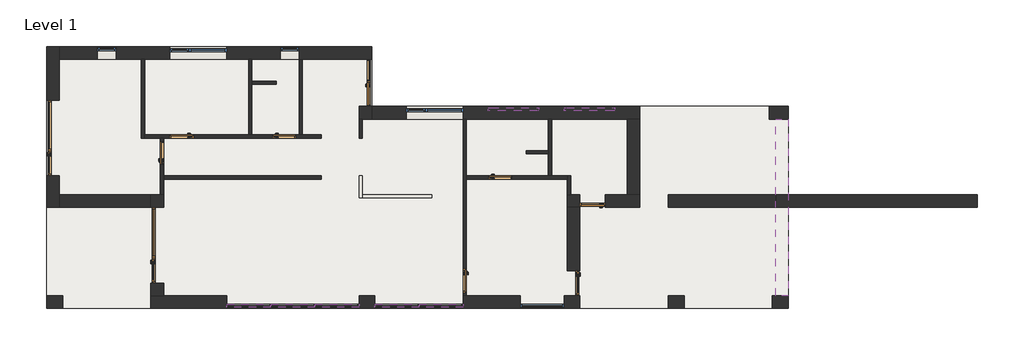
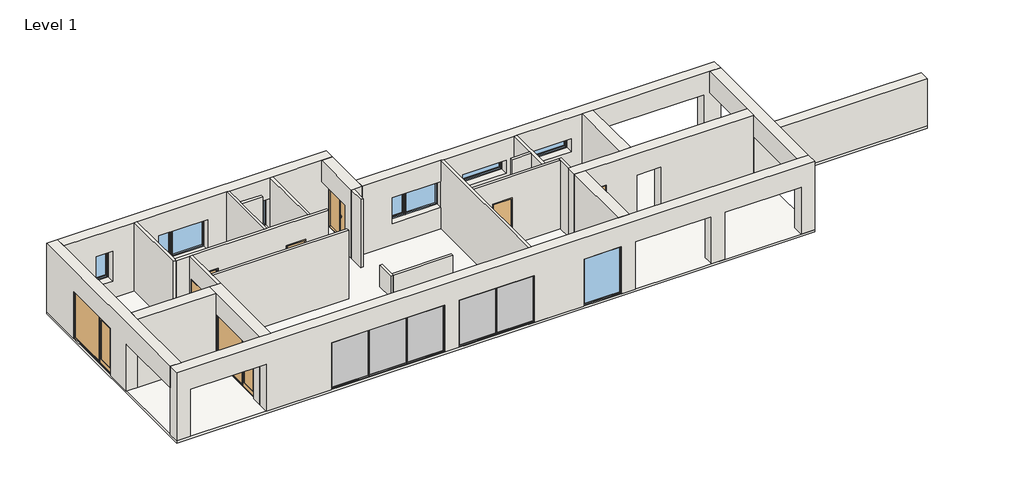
# One storey: 27 walls, 17 members, 10 doors, 7 windows, 5 plates, 1 slab.
"""IFC4 building model written with IfcOpenShell, lengths in millimetres."""

from ifc_helpers import new_model, si_unit, frame, origin, origin_with_axes, place, context, project, spatial, polyline, outline, extrude, faceted_brep, transform, mapped, element, save
from components import door_1800x2200_mm_7a9b0269, ext_door_window_assembly_glass_2880x2200_mm_ebeafb6b, ext_single_flush_out_glass_960x2200_mm_f4f0ea2b, ext_single_flush1_960x2200_mm_7c25dc53, int_single_flush1_900x2200_mm_083ae047, int_single_flush1_900x2200_mm_924e3177, rectangular_mullion_exterior_50x115mm_b31c03e9, rectangular_mullion_exterior_50x115mm_eaa21abb, rectangular_mullion_exterior_50x115mm_593a1a29, system_panel_exterior_glass_22mm_baca3ab9, system_panel_exterior_glass_22mm_266c4f93, fixed_1680x2200_mm_e3bfc0e5, single_light_top_hinged_1920x600_dd11e4f9, single_light_720x1400_mm_50d61ae6, window_assembly_individual_2160x1200_mm_f898fd7d, window_assembly_individual_2160x1400_mm_6f070fa8

model = new_model("IFC4")

# Units and contexts
model_context = context("Model", 3, world=origin())
ifc_project = project(units=[si_unit("LENGTHUNIT", "METRE", prefix="MILLI")], contexts=[model_context])

# Site, building, storey
site = spatial("IfcSite", under=ifc_project)
building = spatial("IfcBuilding", under=site)
storey = spatial("IfcBuildingStorey", under=building, Name="Level 1", Elevation=0.0)

# Doors
placement = place(None, origin())
door_1800x2200_mm_shape = door_1800x2200_mm_7a9b0269(model_context)
element("IfcDoor", 1, ObjectType="Ext. Door inw. Window Assembly : 1800x2200 mm", at=placement, inside=storey, context=model_context, shape_type="MappedRepresentation", body=[
    mapped(door_1800x2200_mm_shape, transform((12120.0, 8580.0, 0.0), x_axis=(0.0, -1.0, 0.0), y_axis=(1.0, 0.0, 0.0), z_axis=(0.0, 0.0, 1.0))),
])
ext_door_window_assembly_glass_2880x2200_mm_shape = ext_door_window_assembly_glass_2880x2200_mm_ebeafb6b(model_context)
element("IfcDoor", 2, ObjectType="Ext. Door Window Assembly - Glass : 2880x2200 mm", at=placement, inside=storey, context=model_context, shape_type="MappedRepresentation", body=[
    mapped(ext_door_window_assembly_glass_2880x2200_mm_shape, transform((4200.0, 2400.0, 0.0), x_axis=(0.0, -1.0, 0.0), y_axis=(1.0, 0.0, 0.0), z_axis=(0.0, 0.0, 1.0))),
])
element("IfcDoor", 3, ObjectType="Ext. Door Window Assembly - Glass : 2880x2200 mm", at=placement, inside=storey, context=model_context, shape_type="MappedRepresentation", body=[
    mapped(ext_door_window_assembly_glass_2880x2200_mm_shape, transform((240.0, 6480.0, 0.0), x_axis=(0.0, -1.0, 0.0), y_axis=(1.0, 0.0, 0.0), z_axis=(0.0, 0.0, 1.0))),
])
ext_single_flush_out_glass_960x2200_mm_shape = ext_single_flush_out_glass_960x2200_mm_f4f0ea2b(model_context)
element("IfcDoor", 4, ObjectType="Ext. Single-Flush out - Glass : 960x2200 mm", at=placement, inside=storey, context=model_context, shape_type="MappedRepresentation", body=[
    mapped(ext_single_flush_out_glass_960x2200_mm_shape, transform((20040.0, 960.0, 0.0), x_axis=(0.0, -1.0, 0.0), y_axis=(1.0, 0.0, 0.0), z_axis=(0.0, 0.0, 1.0))),
])
ext_single_flush1_960x2200_mm_shape = ext_single_flush1_960x2200_mm_7c25dc53(model_context)
element("IfcDoor", 5, ObjectType="Ext. Single-Flush1 : 960x2200 mm", at=placement, inside=storey, context=model_context, shape_type="MappedRepresentation", body=[
    mapped(ext_single_flush1_960x2200_mm_shape, transform((20760.0, 4080.0, 0.0), x_axis=(-1.0, 0.0, 0.0), y_axis=(0.0, -1.0, 0.0), z_axis=(0.0, 0.0, 1.0))),
])
int_single_flush1_900x2200_mm_shape = int_single_flush1_900x2200_mm_083ae047(model_context)
element("IfcDoor", 6, ObjectType="Int. Single-Flush1 : 900x2200 mm", at=placement, inside=storey, context=model_context, shape_type="MappedRepresentation", body=[
    mapped(int_single_flush1_900x2200_mm_shape, transform((4380.0, 5910.0, 0.0), x_axis=(0.0, 1.0, 0.0), y_axis=(-1.0, 0.0, 0.0), z_axis=(0.0, 0.0, 1.0))),
])
element("IfcDoor", 7, ObjectType="Int. Single-Flush1 : 900x2200 mm", at=placement, inside=storey, context=model_context, shape_type="MappedRepresentation", body=[
    mapped(int_single_flush1_900x2200_mm_shape, transform((9030.0, 6540.0, 0.0), x_axis=(1.0, 0.0, 0.0), y_axis=(0.0, 1.0, 0.0), z_axis=(0.0, 0.0, 1.0))),
])
element("IfcDoor", 8, ObjectType="Int. Single-Flush1 : 900x2200 mm", at=placement, inside=storey, context=model_context, shape_type="MappedRepresentation", body=[
    mapped(int_single_flush1_900x2200_mm_shape, transform((17250.0, 4980.0, 0.0), x_axis=(1.0, 0.0, 0.0), y_axis=(0.0, 1.0, 0.0), z_axis=(0.0, 0.0, 1.0))),
])
element("IfcDoor", 9, ObjectType="Int. Single-Flush1 : 900x2200 mm", at=placement, inside=storey, context=model_context, shape_type="MappedRepresentation", body=[
    mapped(int_single_flush1_900x2200_mm_shape, transform((15900.0, 1050.0, 0.0), x_axis=(0.0, -1.0, 0.0), y_axis=(1.0, 0.0, 0.0), z_axis=(0.0, 0.0, 1.0))),
])
int_single_flush1_900x2200_mm_2_shape = int_single_flush1_900x2200_mm_924e3177(model_context)
element("IfcDoor", 10, ObjectType="Int. Single-Flush1 : 900x2200 mm", at=placement, inside=storey, context=model_context, shape_type="MappedRepresentation", body=[
    mapped(int_single_flush1_900x2200_mm_2_shape, transform((5130.0, 6540.0, 0.0), x_axis=(-1.0, 0.0, 0.0), y_axis=(0.0, -1.0, 0.0), z_axis=(0.0, 0.0, 1.0))),
])

# Members
rectangular_mullion_exterior_50x115mm_shape = rectangular_mullion_exterior_50x115mm_b31c03e9(model_context)
element("IfcMember", 11, ObjectType="Rectangular Mullion : Exterior - 50x115mm", at=placement, inside=storey, context=model_context, shape_type="MappedRepresentation", body=[
    mapped(rectangular_mullion_exterior_50x115mm_shape, transform((6840.0, 50.0, 2200.0), x_axis=(0.0, 0.0, 1.0), y_axis=(0.0, 1.0, 0.0), z_axis=(-1.0, 0.0, 0.0))),
])
element("IfcMember", 12, ObjectType="Rectangular Mullion : Exterior - 50x115mm", at=placement, inside=storey, context=model_context, shape_type="MappedRepresentation", body=[
    mapped(rectangular_mullion_exterior_50x115mm_shape, transform((12480.0, 50.0, 2200.0), x_axis=(0.0, 0.0, 1.0), y_axis=(0.0, 1.0, 0.0), z_axis=(-1.0, 0.0, 0.0))),
])
element("IfcMember", 13, ObjectType="Rectangular Mullion : Exterior - 50x115mm", at=placement, inside=storey, context=model_context, shape_type="MappedRepresentation", body=[
    mapped(rectangular_mullion_exterior_50x115mm_shape, transform((11880.0, 50.0, 0.0), x_axis=(0.0, 0.0, -1.0), y_axis=(0.0, 1.0, 0.0), z_axis=(1.0, 0.0, 0.0))),
])
element("IfcMember", 14, ObjectType="Rectangular Mullion : Exterior - 50x115mm", at=placement, inside=storey, context=model_context, shape_type="MappedRepresentation", body=[
    mapped(rectangular_mullion_exterior_50x115mm_shape, transform((15840.0, 50.0, 0.0), x_axis=(0.0, 0.0, -1.0), y_axis=(0.0, 1.0, 0.0), z_axis=(1.0, 0.0, 0.0))),
])
rectangular_mullion_exterior_50x115mm_2_shape = rectangular_mullion_exterior_50x115mm_eaa21abb(model_context)
element("IfcMember", 15, ObjectType="Rectangular Mullion : Exterior - 50x115mm", at=placement, inside=storey, context=model_context, shape_type="MappedRepresentation", body=[
    mapped(rectangular_mullion_exterior_50x115mm_2_shape, transform((8520.0, 50.0, 50.0), x_axis=(-1.0, 0.0, 0.0), y_axis=(0.0, 1.0, 0.0), z_axis=(0.0, 0.0, -1.0))),
])
element("IfcMember", 16, ObjectType="Rectangular Mullion : Exterior - 50x115mm", at=placement, inside=storey, context=model_context, shape_type="MappedRepresentation", body=[
    mapped(rectangular_mullion_exterior_50x115mm_2_shape, transform((10200.0, 50.0, 50.0), x_axis=(-1.0, 0.0, 0.0), y_axis=(0.0, 1.0, 0.0), z_axis=(0.0, 0.0, -1.0))),
])
element("IfcMember", 17, ObjectType="Rectangular Mullion : Exterior - 50x115mm", at=placement, inside=storey, context=model_context, shape_type="MappedRepresentation", body=[
    mapped(rectangular_mullion_exterior_50x115mm_2_shape, transform((14160.0, 50.0, 50.0), x_axis=(-1.0, 0.0, 0.0), y_axis=(0.0, 1.0, 0.0), z_axis=(0.0, 0.0, -1.0))),
])
element("IfcMember", 18, ObjectType="Rectangular Mullion : Exterior - 50x115mm", at=placement, inside=storey, context=model_context, shape_type="MappedRepresentation", body=[
    mapped(rectangular_mullion_exterior_50x115mm_shape, transform((8520.0, 50.0, 0.0), x_axis=(0.0, 0.0, -1.0), y_axis=(0.0, 1.0, 0.0), z_axis=(1.0, 0.0, 0.0))),
])
element("IfcMember", 19, ObjectType="Rectangular Mullion : Exterior - 50x115mm", at=placement, inside=storey, context=model_context, shape_type="MappedRepresentation", body=[
    mapped(rectangular_mullion_exterior_50x115mm_shape, transform((14160.0, 50.0, 0.0), x_axis=(0.0, 0.0, -1.0), y_axis=(0.0, 1.0, 0.0), z_axis=(1.0, 0.0, 0.0))),
])
element("IfcMember", 20, ObjectType="Rectangular Mullion : Exterior - 50x115mm", at=placement, inside=storey, context=model_context, shape_type="MappedRepresentation", body=[
    mapped(rectangular_mullion_exterior_50x115mm_shape, transform((10200.0, 50.0, 0.0), x_axis=(0.0, 0.0, -1.0), y_axis=(0.0, 1.0, 0.0), z_axis=(1.0, 0.0, 0.0))),
])
element("IfcMember", 21, ObjectType="Rectangular Mullion : Exterior - 50x115mm", at=placement, inside=storey, context=model_context, shape_type="MappedRepresentation", body=[
    mapped(rectangular_mullion_exterior_50x115mm_shape, transform((8520.0, 50.0, 2200.0), x_axis=(0.0, 0.0, 1.0), y_axis=(0.0, 1.0, 0.0), z_axis=(-1.0, 0.0, 0.0))),
])
element("IfcMember", 22, ObjectType="Rectangular Mullion : Exterior - 50x115mm", at=placement, inside=storey, context=model_context, shape_type="MappedRepresentation", body=[
    mapped(rectangular_mullion_exterior_50x115mm_shape, transform((10200.0, 50.0, 2200.0), x_axis=(0.0, 0.0, 1.0), y_axis=(0.0, 1.0, 0.0), z_axis=(-1.0, 0.0, 0.0))),
])
element("IfcMember", 23, ObjectType="Rectangular Mullion : Exterior - 50x115mm", at=placement, inside=storey, context=model_context, shape_type="MappedRepresentation", body=[
    mapped(rectangular_mullion_exterior_50x115mm_shape, transform((14160.0, 50.0, 2200.0), x_axis=(0.0, 0.0, 1.0), y_axis=(0.0, 1.0, 0.0), z_axis=(-1.0, 0.0, 0.0))),
])
rectangular_mullion_exterior_50x115mm_3_shape = rectangular_mullion_exterior_50x115mm_593a1a29(model_context)
element("IfcMember", 24, ObjectType="Rectangular Mullion : Exterior - 50x115mm", at=placement, inside=storey, context=model_context, shape_type="MappedRepresentation", body=[
    mapped(rectangular_mullion_exterior_50x115mm_3_shape, transform((11880.0, 50.0, 2150.0), x_axis=(1.0, 0.0, 0.0), y_axis=(0.0, 1.0, 0.0), z_axis=(0.0, 0.0, 1.0))),
])
element("IfcMember", 25, ObjectType="Rectangular Mullion : Exterior - 50x115mm", at=placement, inside=storey, context=model_context, shape_type="MappedRepresentation", body=[
    mapped(rectangular_mullion_exterior_50x115mm_3_shape, transform((15840.0, 50.0, 2150.0), x_axis=(1.0, 0.0, 0.0), y_axis=(0.0, 1.0, 0.0), z_axis=(0.0, 0.0, 1.0))),
])
element("IfcMember", 26, ObjectType="Rectangular Mullion : Exterior - 50x115mm", at=placement, inside=storey, context=model_context, shape_type="MappedRepresentation", body=[
    mapped(rectangular_mullion_exterior_50x115mm_3_shape, transform((6840.0, 50.0, 50.0), x_axis=(-1.0, 0.0, 0.0), y_axis=(0.0, 1.0, 0.0), z_axis=(0.0, 0.0, -1.0))),
])
element("IfcMember", 27, ObjectType="Rectangular Mullion : Exterior - 50x115mm", at=placement, inside=storey, context=model_context, shape_type="MappedRepresentation", body=[
    mapped(rectangular_mullion_exterior_50x115mm_3_shape, transform((12480.0, 50.0, 50.0), x_axis=(-1.0, 0.0, 0.0), y_axis=(0.0, 1.0, 0.0), z_axis=(0.0, 0.0, -1.0))),
])

# Plates
system_panel_exterior_glass_22mm_shape = system_panel_exterior_glass_22mm_baca3ab9(model_context)
element("IfcPlate", 28, ObjectType="System Panel : Exterior - Glass 22mm", at=placement, inside=storey, context=model_context, shape_type="MappedRepresentation", body=[
    mapped(system_panel_exterior_glass_22mm_shape, transform((11027.5, 50.0, 50.0), x_axis=(-1.0, 0.0, 0.0), y_axis=(0.0, -1.0, 0.0), z_axis=(0.0, 0.0, 1.0))),
])
element("IfcPlate", 29, ObjectType="System Panel : Exterior - Glass 22mm", at=placement, inside=storey, context=model_context, shape_type="MappedRepresentation", body=[
    mapped(system_panel_exterior_glass_22mm_shape, transform((7692.5, 50.0, 50.0), x_axis=(-1.0, 0.0, 0.0), y_axis=(0.0, -1.0, 0.0), z_axis=(0.0, 0.0, 1.0))),
])
element("IfcPlate", 30, ObjectType="System Panel : Exterior - Glass 22mm", at=placement, inside=storey, context=model_context, shape_type="MappedRepresentation", body=[
    mapped(system_panel_exterior_glass_22mm_shape, transform((14987.5, 50.0, 50.0), x_axis=(-1.0, 0.0, 0.0), y_axis=(0.0, -1.0, 0.0), z_axis=(0.0, 0.0, 1.0))),
])
element("IfcPlate", 31, ObjectType="System Panel : Exterior - Glass 22mm", at=placement, inside=storey, context=model_context, shape_type="MappedRepresentation", body=[
    mapped(system_panel_exterior_glass_22mm_shape, transform((13332.5, 50.0, 50.0), x_axis=(-1.0, 0.0, 0.0), y_axis=(0.0, -1.0, 0.0), z_axis=(0.0, 0.0, 1.0))),
])
system_panel_exterior_glass_22mm_2_shape = system_panel_exterior_glass_22mm_266c4f93(model_context)
element("IfcPlate", 32, ObjectType="System Panel : Exterior - Glass 22mm", at=placement, inside=storey, context=model_context, shape_type="MappedRepresentation", body=[
    mapped(system_panel_exterior_glass_22mm_2_shape, transform((9360.0, 50.0, 50.0), x_axis=(-1.0, 0.0, 0.0), y_axis=(0.0, -1.0, 0.0), z_axis=(0.0, 0.0, 1.0))),
])

# Slab
element("IfcSlab", 33, ObjectType="Generic - 100mm (Ground)", at=placement, inside=storey, context=model_context, shape_type="SweptSolid", body=[
    extrude(outline(polyline([(12360.0, 9960.0), (12360.0, 7680.0), (28200.0, 7680.0), (28200.0, 4320.0), (35400.0, 4320.0), (35400.0, 3840.0), (28200.0, 3840.0), (28200.0, 0.0), (0.0, 0.0), (0.0, 9960.0), (12360.0, 9960.0)])), frame((0.0, 0.0, -100.0), z_axis=(0.0, 0.0, 1.0), x_axis=(1.0, 0.0, 0.0)), (0.0, 0.0, 1.0), 100.0),
])

# Walls
element("IfcWall", 34, ObjectType="Generic - 120mm (Interior)", at=placement, inside=storey, context=model_context, shape_type="Brep", body=[
    faceted_brep([(3600.0, 9480.0, 0.0), (3600.0, 6480.0, 0.0), (3600.0, 6480.0, 3200.0), (3600.0, 9480.0, 3200.0), (3720.0, 9480.0, 0.0), (3720.0, 9480.0, 3200.0), (3720.0, 6600.0, 3200.0), (3720.0, 6480.0, 3200.0), (3720.0, 6480.0, 0.0), (3720.0, 6600.0, 0.0)], [[[0, 1, 2, 3]], [[4, 5, 6, 7, 8, 9]], [[1, 0, 4, 9, 8]], [[3, 2, 7, 6, 5]], [[2, 1, 8, 7]], [[0, 3, 5, 4]]]),
])
element("IfcWall", 35, ObjectType="Generic - 120mm (Interior)", at=placement, inside=storey, context=model_context, shape_type="Brep", body=[
    faceted_brep([(10440.0, 6480.0, 0.0), (10440.0, 6480.0, 3200.0), (4440.0, 6480.0, 3200.0), (4320.0, 6480.0, 3200.0), (3720.0, 6480.0, 3200.0), (3720.0, 6480.0, 0.0), (4320.0, 6480.0, 0.0), (4440.0, 6480.0, 0.0), (4680.0, 6480.0, 0.0), (4680.0, 6480.0, 2200.0), (5580.0, 6480.0, 2200.0), (5580.0, 6480.0, 0.0), (8580.0, 6480.0, 0.0), (8580.0, 6480.0, 2200.0), (9480.0, 6480.0, 2200.0), (9480.0, 6480.0, 0.0), (10440.0, 6600.0, 3200.0), (10440.0, 6600.0, 0.0), (9720.0, 6600.0, 0.0), (9600.0, 6600.0, 0.0), (9480.0, 6600.0, 0.0), (9480.0, 6600.0, 2200.0), (8580.0, 6600.0, 2200.0), (8580.0, 6600.0, 0.0), (7800.0, 6600.0, 0.0), (7680.0, 6600.0, 0.0), (5580.0, 6600.0, 0.0), (5580.0, 6600.0, 2200.0), (4680.0, 6600.0, 2200.0), (4680.0, 6600.0, 0.0), (3720.0, 6600.0, 0.0), (3720.0, 6600.0, 3200.0), (7680.0, 6600.0, 3200.0), (7800.0, 6600.0, 3200.0), (9600.0, 6600.0, 3200.0), (9720.0, 6600.0, 3200.0)], [[[0, 1, 2, 3, 4, 5, 6, 7, 8, 9, 10, 11, 12, 13, 14, 15]], [[16, 17, 18, 19, 20, 21, 22, 23, 24, 25, 26, 27, 28, 29, 30, 31, 32, 33, 34, 35]], [[17, 0, 15, 20, 19, 18]], [[5, 30, 29, 8, 7, 6]], [[23, 12, 11, 26, 25, 24]], [[1, 0, 17, 16]], [[4, 3, 2, 1, 16, 35, 34, 33, 32, 31]], [[5, 4, 31, 30]], [[14, 21, 20, 15]], [[21, 14, 13, 22]], [[22, 13, 12, 23]], [[28, 9, 8, 29]], [[9, 28, 27, 10]], [[10, 27, 26, 11]]]),
])
element("IfcWall", 36, ObjectType="Generic - 120mm (Interior)", at=placement, inside=storey, context=model_context, shape_type="Brep", body=[
    faceted_brep([(4440.0, 6480.0, 3200.0), (4440.0, 5040.0, 3200.0), (4440.0, 4920.0, 3200.0), (4440.0, 4320.0, 3200.0), (4440.0, 4320.0, 0.0), (4440.0, 4920.0, 0.0), (4440.0, 5040.0, 0.0), (4440.0, 5460.0, 0.0), (4440.0, 5460.0, 2200.0), (4440.0, 6360.0, 2200.0), (4440.0, 6360.0, 0.0), (4440.0, 6480.0, 0.0), (4320.0, 4320.0, 3200.0), (4320.0, 6480.0, 3200.0), (4320.0, 6480.0, 0.0), (4320.0, 6360.0, 0.0), (4320.0, 6360.0, 2200.0), (4320.0, 5460.0, 2200.0), (4320.0, 5460.0, 0.0), (4320.0, 4320.0, 0.0)], [[[0, 1, 2, 3, 4, 5, 6, 7, 8, 9, 10, 11]], [[12, 13, 14, 15, 16, 17, 18, 19]], [[14, 11, 10, 15]], [[4, 19, 18, 7, 6, 5]], [[3, 2, 1, 0, 13, 12]], [[0, 11, 14, 13]], [[4, 3, 12, 19]], [[9, 16, 15, 10]], [[16, 9, 8, 17]], [[17, 8, 7, 18]]]),
])
element("IfcWall", 37, ObjectType="Generic - 120mm (Interior)", at=placement, inside=storey, context=model_context, shape_type="Brep", body=[
    faceted_brep([(7800.0, 6600.0, 0.0), (7800.0, 8520.0, 0.0), (7800.0, 8640.0, 0.0), (7800.0, 9480.0, 0.0), (7800.0, 9480.0, 3200.0), (7800.0, 8640.0, 3200.0), (7800.0, 8520.0, 3200.0), (7800.0, 6600.0, 3200.0), (7680.0, 6600.0, 0.0), (7680.0, 6600.0, 3200.0), (7680.0, 9480.0, 3200.0), (7680.0, 9480.0, 0.0)], [[[0, 1, 2, 3, 4, 5, 6, 7]], [[8, 9, 10, 11]], [[3, 2, 1, 0, 8, 11]], [[7, 6, 5, 4, 10, 9]], [[0, 7, 9, 8]], [[4, 3, 11, 10]]]),
])
element("IfcWall", 38, ObjectType="Generic - 120mm (Interior)", at=placement, inside=storey, context=model_context, shape_type="Brep", body=[
    faceted_brep([(9720.0, 6600.0, 0.0), (9720.0, 9480.0, 0.0), (9720.0, 9480.0, 3200.0), (9720.0, 6600.0, 3200.0), (9600.0, 6600.0, 0.0), (9600.0, 6600.0, 3200.0), (9600.0, 9480.0, 3200.0), (9600.0, 9480.0, 2200.0), (9600.0, 9480.0, 800.0), (9600.0, 9480.0, 0.0)], [[[0, 1, 2, 3]], [[4, 5, 6, 7, 8, 9]], [[1, 0, 4, 9]], [[3, 2, 6, 5]], [[0, 3, 5, 4]], [[2, 1, 9, 8, 7, 6]]]),
])
element("IfcWall", 39, ObjectType="Generic - 120mm (Interior)", at=placement, inside=storey, context=model_context, shape_type="Brep", body=[
    faceted_brep([(15960.0, 7200.0, 3200.0), (15960.0, 5040.0, 3200.0), (15960.0, 4920.0, 3200.0), (15960.0, 480.0, 3200.0), (15960.0, 480.0, 0.0), (15960.0, 600.0, 0.0), (15960.0, 600.0, 2200.0), (15960.0, 1500.0, 2200.0), (15960.0, 1500.0, 0.0), (15960.0, 4920.0, 0.0), (15960.0, 5040.0, 0.0), (15960.0, 7200.0, 0.0), (15840.0, 480.0, 3200.0), (15840.0, 7200.0, 3200.0), (15840.0, 7200.0, 2200.0), (15840.0, 7200.0, 1000.0), (15840.0, 7200.0, 0.0), (15840.0, 1500.0, 0.0), (15840.0, 1500.0, 2200.0), (15840.0, 600.0, 2200.0), (15840.0, 600.0, 0.0), (15840.0, 480.0, 0.0), (15840.0, 480.0, 2200.0)], [[[0, 1, 2, 3, 4, 5, 6, 7, 8, 9, 10, 11]], [[12, 13, 14, 15, 16, 17, 18, 19, 20, 21, 22]], [[4, 21, 20, 5]], [[16, 11, 10, 9, 8, 17]], [[3, 2, 1, 0, 13, 12]], [[0, 11, 16, 15, 14, 13]], [[4, 3, 12, 22, 21]], [[19, 6, 5, 20]], [[6, 19, 18, 7]], [[7, 18, 17, 8]]]),
])
element("IfcWall", 40, ObjectType="Generic - 120mm (Interior)", at=placement, inside=storey, context=model_context, shape_type="Brep", body=[
    faceted_brep([(19920.0, 4320.0, 0.0), (19920.0, 5040.0, 0.0), (19920.0, 5040.0, 3200.0), (19920.0, 4320.0, 3200.0), (19800.0, 4320.0, 0.0), (19800.0, 4320.0, 3200.0), (19800.0, 4920.0, 3200.0), (19800.0, 5040.0, 3200.0), (19800.0, 5040.0, 0.0), (19800.0, 4920.0, 0.0)], [[[0, 1, 2, 3]], [[4, 5, 6, 7, 8, 9]], [[1, 0, 4, 9, 8]], [[3, 2, 7, 6, 5]], [[2, 1, 8, 7]], [[0, 3, 5, 4]]]),
])
element("IfcWall", 41, ObjectType="Generic - 120mm (Interior)", at=placement, inside=storey, context=model_context, shape_type="Brep", body=[
    faceted_brep([(15960.0, 5040.0, 3200.0), (19080.0, 5040.0, 3200.0), (19200.0, 5040.0, 3200.0), (19800.0, 5040.0, 3200.0), (19800.0, 5040.0, 0.0), (19200.0, 5040.0, 0.0), (19080.0, 5040.0, 0.0), (17700.0, 5040.0, 0.0), (17700.0, 5040.0, 2200.0), (16800.0, 5040.0, 2200.0), (16800.0, 5040.0, 0.0), (15960.0, 5040.0, 0.0), (19800.0, 4920.0, 3200.0), (15960.0, 4920.0, 3200.0), (15960.0, 4920.0, 0.0), (16800.0, 4920.0, 0.0), (16800.0, 4920.0, 2200.0), (17700.0, 4920.0, 2200.0), (17700.0, 4920.0, 0.0), (19800.0, 4920.0, 0.0)], [[[0, 1, 2, 3, 4, 5, 6, 7, 8, 9, 10, 11]], [[12, 13, 14, 15, 16, 17, 18, 19]], [[4, 19, 18, 7, 6, 5]], [[14, 11, 10, 15]], [[3, 2, 1, 0, 13, 12]], [[4, 3, 12, 19]], [[0, 11, 14, 13]], [[17, 8, 7, 18]], [[8, 17, 16, 9]], [[9, 16, 15, 10]]]),
])
element("IfcWall", 42, ObjectType="Generic - 120mm (Interior)", at=placement, inside=storey, context=model_context, shape_type="Brep", body=[
    faceted_brep([(19200.0, 5040.0, 0.0), (19200.0, 7200.0, 0.0), (19200.0, 7200.0, 3200.0), (19200.0, 5040.0, 3200.0), (19080.0, 5040.0, 0.0), (19080.0, 5040.0, 3200.0), (19080.0, 5880.0, 3200.0), (19080.0, 6000.0, 3200.0), (19080.0, 7200.0, 3200.0), (19080.0, 7200.0, 0.0), (19080.0, 6000.0, 0.0), (19080.0, 5880.0, 0.0)], [[[0, 1, 2, 3]], [[4, 5, 6, 7, 8, 9, 10, 11]], [[1, 0, 4, 11, 10, 9]], [[3, 2, 8, 7, 6, 5]], [[0, 3, 5, 4]], [[2, 1, 9, 8]]]),
])
element("IfcWall", 43, ObjectType="Generic - 120mm (Interior)", at=placement, inside=storey, context=model_context, shape_type="SweptSolid", body=[
    extrude(outline(polyline([(18240.0, 6000.0), (19080.0, 6000.0), (19080.0, 5880.0), (18240.0, 5880.0), (18240.0, 6000.0)])), origin_with_axes(), (0.0, 0.0, 1.0), 3200.0),
])
element("IfcWall", 44, ObjectType="Generic - 120mm (Interior)", at=placement, inside=storey, context=model_context, shape_type="SweptSolid", body=[
    extrude(outline(polyline([(8720.0, 8520.0), (7800.0, 8520.0), (7800.0, 8640.0), (8720.0, 8640.0), (8720.0, 8520.0)])), origin_with_axes(), (0.0, 0.0, 1.0), 3200.0),
])
element("IfcWall", 45, ObjectType="Generic - 120mm (Interior)", at=placement, inside=storey, context=model_context, shape_type="SweptSolid", body=[
    extrude(outline(polyline([(10440.0, 4920.0), (4440.0, 4920.0), (4440.0, 5040.0), (10440.0, 5040.0), (10440.0, 4920.0)])), origin_with_axes(), (0.0, 0.0, 1.0), 3200.0),
])
element("IfcWall", 46, ObjectType="Generic - 120mm (Interior)", at=placement, inside=storey, context=model_context, shape_type="Brep", body=[
    faceted_brep([(11880.0, 5040.0, 0.0), (11880.0, 4200.0, 0.0), (11880.0, 4200.0, 1000.0), (11880.0, 5040.0, 1000.0), (12000.0, 5040.0, 0.0), (12000.0, 5040.0, 1000.0), (12000.0, 4320.0, 1000.0), (12000.0, 4200.0, 1000.0), (12000.0, 4200.0, 0.0), (12000.0, 4320.0, 0.0)], [[[0, 1, 2, 3]], [[4, 5, 6, 7, 8, 9]], [[1, 0, 4, 9, 8]], [[3, 2, 7, 6, 5]], [[0, 3, 5, 4]], [[2, 1, 8, 7]]]),
])
element("IfcWall", 47, ObjectType="Generic - 120mm (Interior)", at=placement, inside=storey, context=model_context, shape_type="SweptSolid", body=[
    extrude(outline(polyline([(14640.0, 4200.0), (12000.0, 4200.0), (12000.0, 4320.0), (14640.0, 4320.0), (14640.0, 4200.0)])), origin_with_axes(), (0.0, 0.0, 1.0), 1000.0),
])
element("IfcWall", 48, ObjectType="Generic - 120mm (Interior)", at=placement, inside=storey, context=model_context, shape_type="SweptSolid", body=[
    extrude(outline(polyline([(11880.0, 6480.0), (11880.0, 7200.0), (12000.0, 7200.0), (12000.0, 6480.0), (11880.0, 6480.0)])), origin_with_axes(), (0.0, 0.0, 1.0), 3200.0),
])
element("IfcWall", 49, ObjectType="Generic - 480mm (Exterior)", at=placement, inside=storey, context=model_context, shape_type="Brep", body=[
    faceted_brep([(480.0, 9960.0, 3200.0), (480.0, 9480.0, 3200.0), (480.0, 4320.0, 3200.0), (480.0, 3840.0, 3200.0), (480.0, 480.0, 3200.0), (480.0, 480.0, 2200.0), (480.0, 3840.0, 2200.0), (480.0, 3840.0, 0.0), (480.0, 4320.0, 0.0), (480.0, 5040.0, 0.0), (480.0, 5040.0, 2212.0), (480.0, 7920.0, 2212.0), (480.0, 7920.0, 0.0), (480.0, 9480.0, 0.0), (480.0, 9960.0, 0.0), (0.0, 480.0, 3200.0), (0.0, 9960.0, 3200.0), (0.0, 9960.0, 0.0), (0.0, 7920.0, 0.0), (0.0, 7920.0, 2212.0), (0.0, 5040.0, 2212.0), (0.0, 5040.0, 0.0), (0.0, 3840.0, 0.0), (0.0, 3840.0, 2200.0), (0.0, 480.0, 2200.0)], [[[0, 1, 2, 3, 4, 5, 6, 7, 8, 9, 10, 11, 12, 13, 14]], [[15, 16, 17, 18, 19, 20, 21, 22, 23, 24]], [[0, 14, 17, 16]], [[20, 10, 9, 21]], [[10, 20, 19, 11]], [[11, 19, 18, 12]], [[17, 14, 13, 12, 18]], [[7, 22, 21, 9, 8]], [[4, 3, 2, 1, 0, 16, 15]], [[6, 5, 24, 23]], [[7, 6, 23, 22]], [[5, 4, 15, 24]]]),
])
element("IfcWall", 50, ObjectType="Generic - 480mm (Exterior)", at=placement, inside=storey, context=model_context, shape_type="Brep", body=[
    faceted_brep([(480.0, 9480.0, 0.0), (3600.0, 9480.0, 0.0), (3720.0, 9480.0, 0.0), (7680.0, 9480.0, 0.0), (7800.0, 9480.0, 0.0), (9600.0, 9480.0, 0.0), (9720.0, 9480.0, 0.0), (12360.0, 9480.0, 0.0), (12360.0, 9480.0, 2200.0), (12360.0, 9480.0, 3200.0), (11880.0, 9480.0, 3200.0), (9720.0, 9480.0, 3200.0), (9600.0, 9480.0, 3200.0), (7800.0, 9480.0, 3200.0), (7680.0, 9480.0, 3200.0), (3720.0, 9480.0, 3200.0), (3600.0, 9480.0, 3200.0), (480.0, 9480.0, 3200.0), (8880.0, 9480.0, 800.0), (8880.0, 9480.0, 2200.0), (9600.0, 9480.0, 2200.0), (9600.0, 9480.0, 800.0), (6840.0, 9480.0, 2200.0), (6840.0, 9480.0, 800.0), (4680.0, 9480.0, 800.0), (4680.0, 9480.0, 2200.0), (1920.0, 9480.0, 800.0), (1920.0, 9480.0, 2200.0), (2640.0, 9480.0, 2200.0), (2640.0, 9480.0, 800.0), (12360.0, 9960.0, 0.0), (480.0, 9960.0, 0.0), (480.0, 9960.0, 3200.0), (12360.0, 9960.0, 3200.0), (8880.0, 9960.0, 2200.0), (8880.0, 9960.0, 800.0), (9600.0, 9960.0, 800.0), (9600.0, 9960.0, 2200.0), (6840.0, 9960.0, 800.0), (6840.0, 9960.0, 2200.0), (4680.0, 9960.0, 2200.0), (4680.0, 9960.0, 800.0), (1920.0, 9960.0, 2200.0), (1920.0, 9960.0, 800.0), (2640.0, 9960.0, 800.0), (2640.0, 9960.0, 2200.0)], [[[0, 1, 2, 3, 4, 5, 6, 7, 8, 9, 10, 11, 12, 13, 14, 15, 16, 17], [18, 19, 20, 21], [22, 23, 24, 25], [26, 27, 28, 29]], [[30, 31, 32, 33], [34, 35, 36, 37], [38, 39, 40, 41], [42, 43, 44, 45]], [[7, 6, 5, 4, 3, 2, 1, 0, 31, 30]], [[17, 16, 15, 14, 13, 12, 11, 10, 9, 33, 32]], [[0, 17, 32, 31]], [[9, 8, 7, 30, 33]], [[18, 35, 34, 19]], [[36, 21, 20, 37]], [[35, 18, 21, 36]], [[38, 23, 22, 39]], [[40, 25, 24, 41]], [[23, 38, 41, 24]], [[26, 43, 42, 27]], [[44, 29, 28, 45]], [[43, 26, 29, 44]], [[37, 20, 19, 34]], [[25, 40, 39, 22]], [[45, 28, 27, 42]]]),
])
element("IfcWall", 51, ObjectType="Generic - 480mm (Exterior)", at=placement, inside=storey, context=model_context, shape_type="Brep", body=[
    faceted_brep([(11880.0, 7200.0, 3200.0), (11880.0, 9480.0, 3200.0), (11880.0, 9480.0, 2200.0), (11880.0, 7680.0, 2200.0), (11880.0, 7680.0, 0.0), (11880.0, 7200.0, 0.0), (12360.0, 9480.0, 3200.0), (12360.0, 7680.0, 3200.0), (12360.0, 7200.0, 3200.0), (12360.0, 7200.0, 0.0), (12360.0, 7680.0, 0.0), (12360.0, 7680.0, 2200.0), (12360.0, 9480.0, 2200.0)], [[[0, 1, 2, 3, 4, 5]], [[6, 7, 8, 9, 10, 11, 12]], [[9, 5, 4, 10]], [[1, 0, 8, 7, 6]], [[1, 6, 12, 2]], [[3, 11, 10, 4]], [[11, 3, 2, 12]], [[0, 5, 9, 8]]]),
])
element("IfcWall", 52, ObjectType="Generic - 480mm (Exterior)", at=placement, inside=storey, context=model_context, shape_type="Brep", body=[
    faceted_brep([(12360.0, 7200.0, 0.0), (15840.0, 7200.0, 0.0), (15960.0, 7200.0, 0.0), (19080.0, 7200.0, 0.0), (19200.0, 7200.0, 0.0), (22080.0, 7200.0, 0.0), (22560.0, 7200.0, 0.0), (22560.0, 7200.0, 2200.0), (27480.0, 7200.0, 2200.0), (27480.0, 7200.0, 0.0), (28200.0, 7200.0, 0.0), (28200.0, 7200.0, 2200.0), (28200.0, 7200.0, 3200.0), (27720.0, 7200.0, 3200.0), (22560.0, 7200.0, 3200.0), (22080.0, 7200.0, 3200.0), (19200.0, 7200.0, 3200.0), (19080.0, 7200.0, 3200.0), (15960.0, 7200.0, 3200.0), (15840.0, 7200.0, 3200.0), (12360.0, 7200.0, 3200.0), (19680.0, 7200.0, 1600.0), (19680.0, 7200.0, 2200.0), (21600.0, 7200.0, 2200.0), (21600.0, 7200.0, 1600.0), (16800.0, 7200.0, 1600.0), (16800.0, 7200.0, 2200.0), (18720.0, 7200.0, 2200.0), (18720.0, 7200.0, 1600.0), (15840.0, 7200.0, 1000.0), (13680.0, 7200.0, 1000.0), (13680.0, 7200.0, 2200.0), (15840.0, 7200.0, 2200.0), (12360.0, 7680.0, 0.0), (12360.0, 7680.0, 2200.0), (12360.0, 7680.0, 3200.0), (28200.0, 7680.0, 3200.0), (28200.0, 7680.0, 0.0), (27480.0, 7680.0, 0.0), (27480.0, 7680.0, 2200.0), (22560.0, 7680.0, 2200.0), (22560.0, 7680.0, 0.0), (19680.0, 7680.0, 1600.0), (21600.0, 7680.0, 1600.0), (21600.0, 7680.0, 2200.0), (19680.0, 7680.0, 2200.0), (16800.0, 7680.0, 1600.0), (18720.0, 7680.0, 1600.0), (18720.0, 7680.0, 2200.0), (16800.0, 7680.0, 2200.0), (15840.0, 7680.0, 1000.0), (15840.0, 7680.0, 2200.0), (13680.0, 7680.0, 2200.0), (13680.0, 7680.0, 1000.0)], [[[0, 1, 2, 3, 4, 5, 6, 7, 8, 9, 10, 11, 12, 13, 14, 15, 16, 17, 18, 19, 20], [21, 22, 23, 24], [25, 26, 27, 28], [29, 30, 31, 32]], [[33, 34, 35, 36, 37, 38, 39, 40, 41], [42, 43, 44, 45], [46, 47, 48, 49], [50, 51, 52, 53]], [[12, 11, 10, 37, 36]], [[22, 21, 42, 45]], [[23, 22, 45, 44]], [[24, 23, 44, 43]], [[21, 24, 43, 42]], [[26, 25, 46, 49]], [[27, 26, 49, 48]], [[28, 27, 48, 47]], [[25, 28, 47, 46]], [[51, 50, 29, 32]], [[52, 51, 32, 31]], [[53, 52, 31, 30]], [[50, 53, 30, 29]], [[6, 5, 4, 3, 2, 1, 0, 33, 41]], [[20, 19, 18, 17, 16, 15, 14, 13, 12, 36, 35]], [[8, 7, 40, 39]], [[9, 8, 39, 38]], [[10, 9, 38, 37]], [[7, 6, 41, 40]], [[0, 20, 35, 34, 33]]]),
])
element("IfcWall", 53, ObjectType="Generic - 480mm (Exterior)", at=placement, inside=storey, context=model_context, shape_type="Brep", body=[
    faceted_brep([(27720.0, 7200.0, 2200.0), (27720.0, 480.0, 2200.0), (27720.0, 480.0, 3200.0), (27720.0, 3840.0, 3200.0), (27720.0, 4320.0, 3200.0), (27720.0, 7200.0, 3200.0), (28200.0, 7200.0, 2200.0), (28200.0, 7200.0, 3200.0), (28200.0, 480.0, 3200.0), (28200.0, 480.0, 2200.0)], [[[0, 1, 2, 3, 4, 5]], [[6, 7, 8, 9]], [[1, 0, 6, 9]], [[5, 4, 3, 2, 8, 7]], [[0, 5, 7, 6]], [[2, 1, 9, 8]]]),
])
element("IfcWall", 54, ObjectType="Generic - 480mm (Exterior)", at=placement, inside=storey, context=model_context, shape_type="Brep", body=[
    faceted_brep([(28200.0, 480.0, 0.0), (27600.0, 480.0, 0.0), (27600.0, 480.0, 2200.0), (24240.0, 480.0, 2200.0), (24240.0, 480.0, 0.0), (23640.0, 480.0, 0.0), (23640.0, 480.0, 2200.0), (20280.0, 480.0, 2200.0), (20280.0, 480.0, 0.0), (19680.0, 480.0, 0.0), (19680.0, 480.0, 2200.0), (18000.0, 480.0, 2200.0), (18000.0, 480.0, 0.0), (15960.0, 480.0, 0.0), (15840.0, 480.0, 0.0), (15840.0, 480.0, 2200.0), (12480.0, 480.0, 2200.0), (12480.0, 480.0, 0.0), (11880.0, 480.0, 0.0), (11880.0, 480.0, 2200.0), (6840.0, 480.0, 2200.0), (6840.0, 480.0, 0.0), (4440.0, 480.0, 0.0), (3960.0, 480.0, 0.0), (3960.0, 480.0, 2200.0), (600.0, 480.0, 2200.0), (600.0, 480.0, 0.0), (0.0, 480.0, 0.0), (0.0, 480.0, 2200.0), (0.0, 480.0, 3200.0), (480.0, 480.0, 3200.0), (3960.0, 480.0, 3200.0), (4440.0, 480.0, 3200.0), (15840.0, 480.0, 3200.0), (15960.0, 480.0, 3200.0), (19800.0, 480.0, 3200.0), (20280.0, 480.0, 3200.0), (27720.0, 480.0, 3200.0), (28200.0, 480.0, 3200.0), (28200.0, 480.0, 2200.0), (27600.0, 0.0, 0.0), (28200.0, 0.0, 0.0), (28200.0, 0.0, 3200.0), (0.0, 0.0, 3200.0), (0.0, 0.0, 0.0), (600.0, 0.0, 0.0), (600.0, 0.0, 2200.0), (3960.0, 0.0, 2200.0), (3960.0, 0.0, 0.0), (6840.0, 0.0, 0.0), (6840.0, 0.0, 2200.0), (11880.0, 0.0, 2200.0), (11880.0, 0.0, 0.0), (12480.0, 0.0, 0.0), (12480.0, 0.0, 2200.0), (15840.0, 0.0, 2200.0), (15840.0, 0.0, 0.0), (18000.0, 0.0, 0.0), (18000.0, 0.0, 2200.0), (19680.0, 0.0, 2200.0), (19680.0, 0.0, 0.0), (20280.0, 0.0, 0.0), (20280.0, 0.0, 2200.0), (23640.0, 0.0, 2200.0), (23640.0, 0.0, 0.0), (24240.0, 0.0, 0.0), (24240.0, 0.0, 2200.0), (27600.0, 0.0, 2200.0)], [[[0, 1, 2, 3, 4, 5, 6, 7, 8, 9, 10, 11, 12, 13, 14, 15, 16, 17, 18, 19, 20, 21, 22, 23, 24, 25, 26, 27, 28, 29, 30, 31, 32, 33, 34, 35, 36, 37, 38, 39]], [[40, 41, 42, 43, 44, 45, 46, 47, 48, 49, 50, 51, 52, 53, 54, 55, 56, 57, 58, 59, 60, 61, 62, 63, 64, 65, 66, 67]], [[59, 10, 9, 60]], [[10, 59, 58, 11]], [[11, 58, 57, 12]], [[51, 19, 18, 52]], [[19, 51, 50, 20]], [[20, 50, 49, 21]], [[55, 15, 14, 56]], [[15, 55, 54, 16]], [[16, 54, 53, 17]], [[1, 0, 41, 40]], [[38, 37, 36, 35, 34, 33, 32, 31, 30, 29, 43, 42]], [[2, 1, 40, 67]], [[3, 2, 67, 66]], [[4, 3, 66, 65]], [[5, 4, 65, 64]], [[6, 5, 64, 63]], [[7, 6, 63, 62]], [[9, 8, 61, 60]], [[12, 57, 56, 14, 13]], [[52, 18, 17, 53]], [[23, 22, 21, 49, 48]], [[25, 24, 47, 46]], [[26, 25, 46, 45]], [[27, 26, 45, 44]], [[24, 23, 48, 47]], [[8, 7, 62, 61]], [[0, 39, 38, 42, 41]], [[29, 28, 27, 44, 43]]]),
])
element("IfcWall", 55, ObjectType="Generic - 480mm (Exterior)", at=placement, inside=storey, context=model_context, shape_type="Brep", body=[
    faceted_brep([(4440.0, 4320.0, 3200.0), (4440.0, 480.0, 3200.0), (4440.0, 480.0, 0.0), (4440.0, 960.0, 0.0), (4440.0, 960.0, 2212.0), (4440.0, 3840.0, 2212.0), (4440.0, 3840.0, 0.0), (4440.0, 4320.0, 0.0), (3960.0, 480.0, 3200.0), (3960.0, 3840.0, 3200.0), (3960.0, 4320.0, 3200.0), (3960.0, 4320.0, 0.0), (3960.0, 3840.0, 0.0), (3960.0, 3840.0, 2212.0), (3960.0, 960.0, 2212.0), (3960.0, 960.0, 0.0), (3960.0, 480.0, 0.0), (3960.0, 480.0, 2200.0), (4320.0, 4320.0, 0.0), (4320.0, 4320.0, 3200.0)], [[[0, 1, 2, 3, 4, 5, 6, 7]], [[8, 9, 10, 11, 12, 13, 14, 15, 16, 17]], [[11, 18, 7, 6, 12]], [[2, 16, 15, 3]], [[1, 0, 19, 10, 9, 8]], [[0, 7, 18, 11, 10, 19]], [[14, 4, 3, 15]], [[4, 14, 13, 5]], [[5, 13, 12, 6]], [[16, 2, 1, 8, 17]]]),
])
element("IfcWall", 56, ObjectType="Generic - 480mm (Exterior)", at=placement, inside=storey, context=model_context, shape_type="Brep", body=[
    faceted_brep([(3960.0, 4320.0, 0.0), (480.0, 4320.0, 0.0), (480.0, 4320.0, 3200.0), (3960.0, 4320.0, 3200.0), (3960.0, 3840.0, 0.0), (3960.0, 3840.0, 3200.0), (480.0, 3840.0, 3200.0), (480.0, 3840.0, 2200.0), (480.0, 3840.0, 0.0)], [[[0, 1, 2, 3]], [[4, 5, 6, 7, 8]], [[1, 0, 4, 8]], [[3, 2, 6, 5]], [[0, 3, 5, 4]], [[1, 8, 7, 6, 2]]]),
])
element("IfcWall", 57, ObjectType="Generic - 480mm (Exterior)", at=placement, inside=storey, context=model_context, shape_type="Brep", body=[
    faceted_brep([(22080.0, 7200.0, 3200.0), (22080.0, 7200.0, 0.0), (22080.0, 4320.0, 0.0), (22080.0, 4320.0, 3200.0), (22560.0, 7200.0, 0.0), (22560.0, 7200.0, 2200.0), (22560.0, 7200.0, 3200.0), (22560.0, 4320.0, 3200.0), (22560.0, 4320.0, 2200.0), (22560.0, 4320.0, 0.0)], [[[0, 1, 2, 3]], [[4, 5, 6, 7, 8, 9]], [[2, 1, 4, 9]], [[0, 3, 7, 6]], [[0, 6, 5, 4, 1]], [[3, 2, 9, 8, 7]]]),
])
element("IfcWall", 58, ObjectType="Generic - 480mm (Exterior)", at=placement, inside=storey, context=model_context, shape_type="SweptSolid", body=[
    extrude(outline(polyline([(27720.0, 4320.0), (35400.0, 4320.0), (35400.0, 3840.0), (27720.0, 3840.0), (27720.0, 4320.0)])), origin_with_axes(), (0.0, 0.0, 1.0), 2200.0),
])
element("IfcWall", 59, ObjectType="Generic - 480mm (Exterior)", at=placement, inside=storey, context=model_context, shape_type="Brep", body=[
    faceted_brep([(19800.0, 480.0, 3200.0), (19800.0, 3840.0, 3200.0), (19800.0, 3840.0, 0.0), (19800.0, 1440.0, 0.0), (19800.0, 1440.0, 2212.0), (19800.0, 480.0, 2212.0), (20280.0, 3840.0, 3200.0), (20280.0, 480.0, 3200.0), (20280.0, 480.0, 2212.0), (20280.0, 1440.0, 2212.0), (20280.0, 1440.0, 0.0), (20280.0, 3840.0, 0.0), (20280.0, 3840.0, 2200.0)], [[[0, 1, 2, 3, 4, 5]], [[6, 7, 8, 9, 10, 11, 12]], [[2, 11, 10, 3]], [[1, 0, 7, 6]], [[2, 1, 6, 12, 11]], [[4, 9, 8, 5]], [[9, 4, 3, 10]], [[7, 0, 5, 8]]]),
])
element("IfcWall", 60, ObjectType="Generic - 480mm (Exterior)", at=placement, inside=storey, context=model_context, shape_type="Brep", body=[
    faceted_brep([(19800.0, 4320.0, 3200.0), (19920.0, 4320.0, 3200.0), (22080.0, 4320.0, 3200.0), (22560.0, 4320.0, 3200.0), (27720.0, 4320.0, 3200.0), (27720.0, 4320.0, 2200.0), (27720.0, 4320.0, 0.0), (23640.0, 4320.0, 0.0), (23640.0, 4320.0, 2200.0), (22560.0, 4320.0, 2200.0), (22560.0, 4320.0, 0.0), (22080.0, 4320.0, 0.0), (21240.0, 4320.0, 0.0), (21240.0, 4320.0, 2200.0), (20280.0, 4320.0, 2200.0), (20280.0, 4320.0, 0.0), (19920.0, 4320.0, 0.0), (19800.0, 4320.0, 0.0), (27720.0, 3840.0, 3200.0), (20280.0, 3840.0, 3200.0), (19800.0, 3840.0, 3200.0), (19800.0, 3840.0, 0.0), (20280.0, 3840.0, 0.0), (20280.0, 3840.0, 2200.0), (21240.0, 3840.0, 2200.0), (21240.0, 3840.0, 0.0), (22560.0, 3840.0, 0.0), (22560.0, 3840.0, 2200.0), (23640.0, 3840.0, 2200.0), (23640.0, 3840.0, 0.0), (27720.0, 3840.0, 0.0), (27720.0, 3840.0, 2200.0)], [[[0, 1, 2, 3, 4, 5, 6, 7, 8, 9, 10, 11, 12, 13, 14, 15, 16, 17]], [[18, 19, 20, 21, 22, 23, 24, 25, 26, 27, 28, 29, 30, 31]], [[21, 17, 16, 15, 22]], [[6, 30, 29, 7]], [[10, 26, 25, 12, 11]], [[4, 3, 2, 1, 0, 20, 19, 18]], [[0, 17, 21, 20]], [[14, 23, 22, 15]], [[23, 14, 13, 24]], [[24, 13, 12, 25]], [[30, 6, 5, 4, 18, 31]], [[8, 28, 27, 9]], [[28, 8, 7, 29]], [[9, 27, 26, 10]]]),
])

# Windows
fixed_1680x2200_mm_shape = fixed_1680x2200_mm_e3bfc0e5(model_context)
element("IfcWindow", 61, ObjectType="Fixed : 1680x2200 mm", at=placement, inside=storey, context=model_context, shape_type="MappedRepresentation", body=[
    mapped(fixed_1680x2200_mm_shape, transform((18840.0, 240.0, -800.0), x_axis=(-1.0, 0.0, 0.0), y_axis=(0.0, -1.0, 0.0), z_axis=(0.0, 0.0, 1.0))),
])
single_light_top_hinged_1920x600_shape = single_light_top_hinged_1920x600_dd11e4f9(model_context)
element("IfcWindow", 62, ObjectType="Single-Light (Top Hinged) : 1920x600", at=placement, inside=storey, context=model_context, shape_type="MappedRepresentation", body=[
    mapped(single_light_top_hinged_1920x600_shape, transform((17760.0, 7440.0, 800.0), x_axis=(1.0, 0.0, 0.0), y_axis=(0.0, 1.0, 0.0), z_axis=(0.0, 0.0, 1.0))),
])
element("IfcWindow", 63, ObjectType="Single-Light (Top Hinged) : 1920x600", at=placement, inside=storey, context=model_context, shape_type="MappedRepresentation", body=[
    mapped(single_light_top_hinged_1920x600_shape, transform((20640.0, 7440.0, 800.0), x_axis=(1.0, 0.0, 0.0), y_axis=(0.0, 1.0, 0.0), z_axis=(0.0, 0.0, 1.0))),
])
single_light_720x1400_mm_shape = single_light_720x1400_mm_50d61ae6(model_context)
element("IfcWindow", 64, ObjectType="Single-Light : 720x1400 mm", at=placement, inside=storey, context=model_context, shape_type="MappedRepresentation", body=[
    mapped(single_light_720x1400_mm_shape, transform((2280.0, 9720.0, 0.0), x_axis=(1.0, 0.0, 0.0), y_axis=(0.0, 1.0, 0.0), z_axis=(0.0, 0.0, 1.0))),
])
element("IfcWindow", 65, ObjectType="Single-Light : 720x1400 mm", at=placement, inside=storey, context=model_context, shape_type="MappedRepresentation", body=[
    mapped(single_light_720x1400_mm_shape, transform((9240.0, 9720.0, 0.0), x_axis=(1.0, 0.0, 0.0), y_axis=(0.0, 1.0, 0.0), z_axis=(0.0, 0.0, 1.0))),
])
window_assembly_individual_2160x1200_mm_shape = window_assembly_individual_2160x1200_mm_f898fd7d(model_context)
element("IfcWindow", 66, ObjectType="Window Assembly Individual : 2160x1200 mm", at=placement, inside=storey, context=model_context, shape_type="MappedRepresentation", body=[
    mapped(window_assembly_individual_2160x1200_mm_shape, transform((14760.0, 7440.0, 200.0), x_axis=(-1.0, 0.0, 0.0), y_axis=(0.0, -1.0, 0.0), z_axis=(0.0, 0.0, 1.0))),
])
window_assembly_individual_2160x1400_mm_shape = window_assembly_individual_2160x1400_mm_6f070fa8(model_context)
element("IfcWindow", 67, ObjectType="Window Assembly Individual : 2160x1400 mm", at=placement, inside=storey, context=model_context, shape_type="MappedRepresentation", body=[
    mapped(window_assembly_individual_2160x1400_mm_shape, transform((5760.0, 9720.0, 0.0), x_axis=(-1.0, 0.0, 0.0), y_axis=(0.0, -1.0, 0.0), z_axis=(0.0, 0.0, 1.0))),
])

save(model, "model.ifc")
